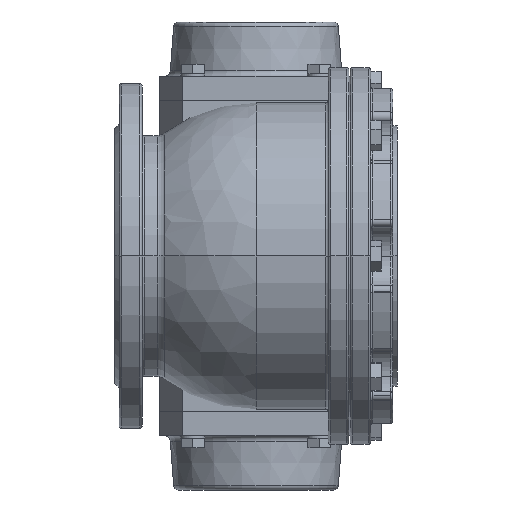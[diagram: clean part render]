
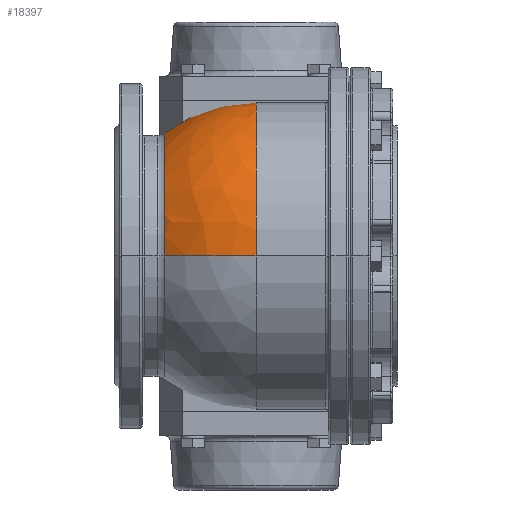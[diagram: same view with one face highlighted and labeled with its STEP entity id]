
A CAD part, front view. The second image highlights one B-rep face of the part: STEP entity #18397.
In plain terms, the highlighted spherical face has radius 127 mm.
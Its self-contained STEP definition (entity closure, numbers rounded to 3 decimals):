
#240 = CARTESIAN_POINT ( 'NONE',  ( -75.91, -101.817, 0. ) ) ;
#243 = CARTESIAN_POINT ( 'NONE',  ( -75.91, 101.817, 0. ) ) ;
#3810 = ORIENTED_EDGE ( 'NONE', *, *, #23760, .T. ) ;
#3811 = ORIENTED_EDGE ( 'NONE', *, *, #23761, .T. ) ;
#3812 = ORIENTED_EDGE ( 'NONE', *, *, #23762, .F. ) ;
#3813 = ORIENTED_EDGE ( 'NONE', *, *, #23763, .T. ) ;
#3814 = ORIENTED_EDGE ( 'NONE', *, *, #23764, .F. ) ;
#4533 = VERTEX_POINT ( 'NONE', #19955 ) ;
#4542 = VERTEX_POINT ( 'NONE', #19964 ) ;
#4545 = VERTEX_POINT ( 'NONE', #19967 ) ;
#4740 = EDGE_LOOP ( 'NONE', ( #3810, #3811, #3812, #3813, #3814 ) ) ;
#8124 = CIRCLE ( 'NONE', #8133, 127. ) ;
#8129 = CIRCLE ( 'NONE', #8131, 101.817 ) ;
#8130 = CIRCLE ( 'NONE', #8137, 37.856 ) ;
#8131 = AXIS2_PLACEMENT_3D ( 'NONE', #21419, #21420, #21421 ) ;
#8132 = CIRCLE ( 'NONE', #8135, 127. ) ;
#8133 = AXIS2_PLACEMENT_3D ( 'NONE', #21422, #21423, #21424 ) ;
#8135 = AXIS2_PLACEMENT_3D ( 'NONE', #21425, #21426, #21427 ) ;
#8136 = CIRCLE ( 'NONE', #8139, 127. ) ;
#8137 = AXIS2_PLACEMENT_3D ( 'NONE', #21430, #21431, #21432 ) ;
#8139 = AXIS2_PLACEMENT_3D ( 'NONE', #21435, #21436, #21437 ) ;
#9364 = CARTESIAN_POINT ( 'NONE',  ( 0., 0., 0. ) ) ;
#9369 = FACE_OUTER_BOUND ( 'NONE', #4740, .T. ) ;
#9371 = SPHERICAL_SURFACE ( 'NONE', #20285, 127. ) ;
#9375 = DIRECTION ( 'NONE',  ( 0., 0., 1. ) ) ;
#9377 = DIRECTION ( 'NONE',  ( 0., 1., 0. ) ) ;
#18397 = ADVANCED_FACE ( 'NONE', ( #9369 ), #9371, .T. ) ;
#19955 = CARTESIAN_POINT ( 'NONE',  ( 0., 121.227, 37.856 ) ) ;
#19964 = CARTESIAN_POINT ( 'NONE',  ( 0., -127., 0. ) ) ;
#19967 = CARTESIAN_POINT ( 'NONE',  ( -37.856, 121.227, 0. ) ) ;
#20285 = AXIS2_PLACEMENT_3D ( 'NONE', #9364, #9375, #9377 ) ;
#21419 = CARTESIAN_POINT ( 'NONE',  ( -75.91, 0., 0. ) ) ;
#21420 = DIRECTION ( 'NONE',  ( 1., 0., 0. ) ) ;
#21421 = DIRECTION ( 'NONE',  ( 0., 1., 0. ) ) ;
#21422 = CARTESIAN_POINT ( 'NONE',  ( 0., 0., 0. ) ) ;
#21423 = DIRECTION ( 'NONE',  ( 0., 0., 1. ) ) ;
#21424 = DIRECTION ( 'NONE',  ( 0., -1., 0. ) ) ;
#21425 = CARTESIAN_POINT ( 'NONE',  ( 0., 0., 0. ) ) ;
#21426 = DIRECTION ( 'NONE',  ( 1., 0., 0. ) ) ;
#21427 = DIRECTION ( 'NONE',  ( 0., 1., 0. ) ) ;
#21430 = CARTESIAN_POINT ( 'NONE',  ( 0., 121.227, 0. ) ) ;
#21431 = DIRECTION ( 'NONE',  ( 0., -1., 0. ) ) ;
#21432 = DIRECTION ( 'NONE',  ( 0., 0., -1. ) ) ;
#21435 = CARTESIAN_POINT ( 'NONE',  ( 0., 0., 0. ) ) ;
#21436 = DIRECTION ( 'NONE',  ( 0., 0., -1. ) ) ;
#21437 = DIRECTION ( 'NONE',  ( -1., 0., 0. ) ) ;
#23760 = EDGE_CURVE ( 'NONE', #24036, #24033, #8129, .T. ) ;
#23761 = EDGE_CURVE ( 'NONE', #24033, #4542, #8124, .T. ) ;
#23762 = EDGE_CURVE ( 'NONE', #4533, #4542, #8132, .T. ) ;
#23763 = EDGE_CURVE ( 'NONE', #4533, #4545, #8130, .T. ) ;
#23764 = EDGE_CURVE ( 'NONE', #24036, #4545, #8136, .T. ) ;
#24033 = VERTEX_POINT ( 'NONE', #240 ) ;
#24036 = VERTEX_POINT ( 'NONE', #243 ) ;
